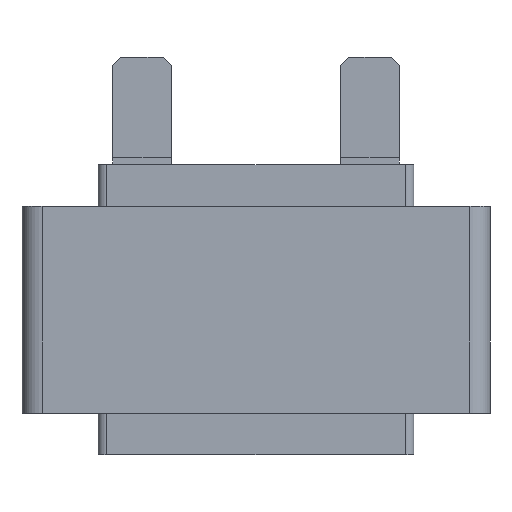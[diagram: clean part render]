
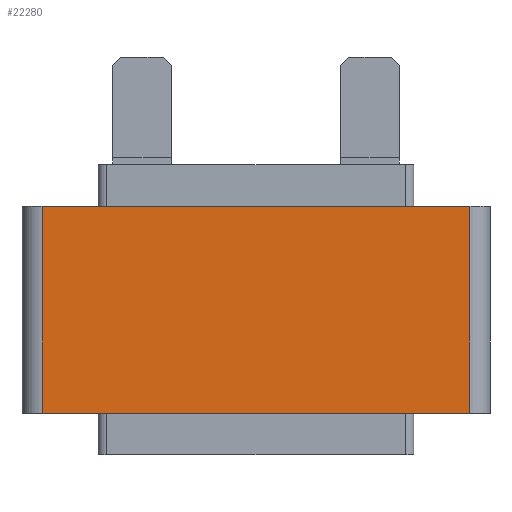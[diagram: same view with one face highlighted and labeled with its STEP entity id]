
A CAD part, front view. The second image highlights one B-rep face of the part: STEP entity #22280.
In plain terms, the highlighted planar face has unit normal (0, -1, 0).
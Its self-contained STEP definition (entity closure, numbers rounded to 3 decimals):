
#394 = EDGE_CURVE ( 'NONE', #22395, #22098, #19831, .T. ) ;
#396 = VECTOR ( 'NONE', #21630, 1000. ) ;
#1290 = VERTEX_POINT ( 'NONE', #21674 ) ;
#1897 = EDGE_CURVE ( 'NONE', #22395, #22832, #1915, .T. ) ;
#1915 = LINE ( 'NONE', #7525, #16524 ) ;
#2188 = ORIENTED_EDGE ( 'NONE', *, *, #1897, .F. ) ;
#2556 = CARTESIAN_POINT ( 'NONE',  ( 25.43, -10.881, 12.3 ) ) ;
#2676 = VECTOR ( 'NONE', #6188, 1000. ) ;
#3116 = CARTESIAN_POINT ( 'NONE',  ( -25.43, -10.881, 12.3 ) ) ;
#3237 = CARTESIAN_POINT ( 'NONE',  ( -25.43, -10.881, -12.3 ) ) ;
#4179 = ORIENTED_EDGE ( 'NONE', *, *, #15842, .T. ) ;
#6188 = DIRECTION ( 'NONE',  ( 0., 0., -1. ) ) ;
#6284 = EDGE_CURVE ( 'NONE', #22832, #1290, #9275, .T. ) ;
#6958 = DIRECTION ( 'NONE',  ( 0., 0., -1. ) ) ;
#7525 = CARTESIAN_POINT ( 'NONE',  ( -25.43, -10.881, 12.3 ) ) ;
#7544 = PLANE ( 'NONE',  #17644 ) ;
#9275 = LINE ( 'NONE', #13436, #2676 ) ;
#10320 = CARTESIAN_POINT ( 'NONE',  ( -25.43, -10.881, -12.3 ) ) ;
#11267 = DIRECTION ( 'NONE',  ( 0., 0., 1. ) ) ;
#11398 = EDGE_LOOP ( 'NONE', ( #4179, #20728, #2188, #20271 ) ) ;
#12783 = FACE_OUTER_BOUND ( 'NONE', #11398, .T. ) ;
#13436 = CARTESIAN_POINT ( 'NONE',  ( 25.43, -10.881, 12.3 ) ) ;
#13867 = LINE ( 'NONE', #10320, #396 ) ;
#14925 = VECTOR ( 'NONE', #6958, 1000. ) ;
#15842 = EDGE_CURVE ( 'NONE', #22098, #1290, #13867, .T. ) ;
#16524 = VECTOR ( 'NONE', #23747, 1000. ) ;
#16850 = CARTESIAN_POINT ( 'NONE',  ( -25.43, -10.881, 12.3 ) ) ;
#17253 = CARTESIAN_POINT ( 'NONE',  ( -25.43, -10.881, 12.3 ) ) ;
#17644 = AXIS2_PLACEMENT_3D ( 'NONE', #16850, #18650, #11267 ) ;
#18650 = DIRECTION ( 'NONE',  ( 0., 1., 0. ) ) ;
#19831 = LINE ( 'NONE', #3116, #14925 ) ;
#20271 = ORIENTED_EDGE ( 'NONE', *, *, #394, .T. ) ;
#20728 = ORIENTED_EDGE ( 'NONE', *, *, #6284, .F. ) ;
#21630 = DIRECTION ( 'NONE',  ( 1., 0., 0. ) ) ;
#21674 = CARTESIAN_POINT ( 'NONE',  ( 25.43, -10.881, -12.3 ) ) ;
#22098 = VERTEX_POINT ( 'NONE', #3237 ) ;
#22280 = ADVANCED_FACE ( 'NONE', ( #12783 ), #7544, .F. ) ;
#22395 = VERTEX_POINT ( 'NONE', #17253 ) ;
#22832 = VERTEX_POINT ( 'NONE', #2556 ) ;
#23747 = DIRECTION ( 'NONE',  ( 1., 0., 0. ) ) ;
